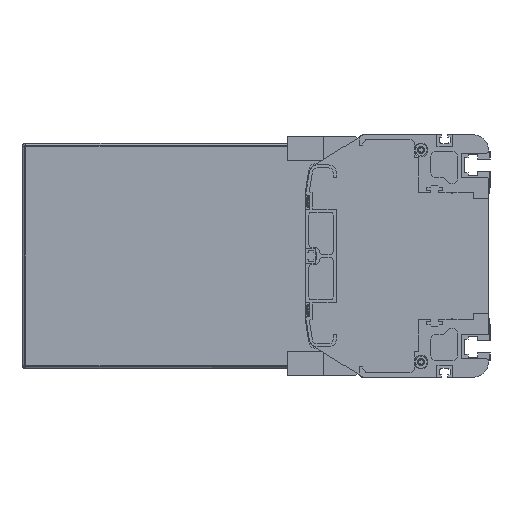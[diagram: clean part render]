
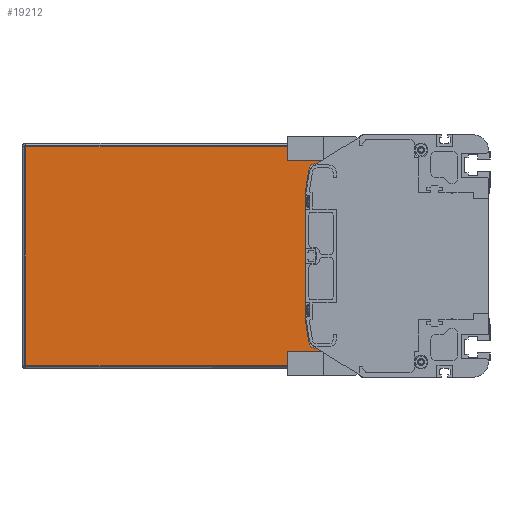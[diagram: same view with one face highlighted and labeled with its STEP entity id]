
A CAD part, left-side view. The second image highlights one B-rep face of the part: STEP entity #19212.
In plain terms, the highlighted planar face has unit normal (-1, 0, 0).
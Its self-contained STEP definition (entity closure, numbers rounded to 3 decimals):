
#173=DIRECTION('',(0.,-1.,0.));
#174=VECTOR('',#173,220.5);
#175=CARTESIAN_POINT('',(2386.5,306.5,-72.));
#176=LINE('',#175,#174);
#379=DIRECTION('',(0.,0.,-1.));
#380=VECTOR('',#379,11.);
#381=CARTESIAN_POINT('',(2386.5,86.,-61.));
#382=LINE('',#381,#380);
#388=DIRECTION('',(0.,0.,-1.));
#389=VECTOR('',#388,11.);
#390=CARTESIAN_POINT('',(2386.5,86.,72.));
#391=LINE('',#390,#389);
#397=CARTESIAN_POINT('',(2386.5,114.728,56.));
#398=DIRECTION('',(-1.,0.,0.));
#399=DIRECTION('',(0.,0.,1.));
#400=AXIS2_PLACEMENT_3D('',#397,#398,#399);
#402=DIRECTION('',(0.,0.156,-0.988));
#403=VECTOR('',#402,14.963);
#404=CARTESIAN_POINT('',(2386.5,119.666,56.78));
#405=LINE('',#404,#403);
#406=DIRECTION('',(0.,-0.156,-0.988));
#407=VECTOR('',#406,14.963);
#408=CARTESIAN_POINT('',(2386.5,122.,-42.));
#409=LINE('',#408,#407);
#410=CARTESIAN_POINT('',(2386.5,114.728,-56.));
#411=DIRECTION('',(-1.,0.,0.));
#412=DIRECTION('',(0.,0.988,-0.156));
#413=AXIS2_PLACEMENT_3D('',#410,#411,#412);
#419=DIRECTION('',(0.,0.,-1.));
#420=VECTOR('',#419,144.);
#421=CARTESIAN_POINT('',(2386.5,306.5,72.));
#422=LINE('',#421,#420);
#509=DIRECTION('',(0.,1.,0.));
#510=VECTOR('',#509,220.5);
#511=CARTESIAN_POINT('',(2386.5,86.,72.));
#512=LINE('',#511,#510);
#796=DIRECTION('',(0.,-1.,0.));
#797=VECTOR('',#796,28.728);
#798=CARTESIAN_POINT('',(2386.5,114.728,61.));
#799=LINE('',#798,#797);
#9275=DIRECTION('',(0.,1.,0.));
#9276=VECTOR('',#9275,28.728);
#9277=CARTESIAN_POINT('',(2386.5,86.,-61.));
#9278=LINE('',#9277,#9276);
#9295=DIRECTION('',(0.,0.,1.));
#9296=VECTOR('',#9295,84.);
#9297=CARTESIAN_POINT('',(2386.5,122.,-42.));
#9298=LINE('',#9297,#9296);
#15230=CARTESIAN_POINT('',(2386.5,306.5,-72.));
#15231=CARTESIAN_POINT('',(2386.5,86.,-72.));
#15232=VERTEX_POINT('',#15230);
#15233=VERTEX_POINT('',#15231);
#15234=CARTESIAN_POINT('',(2386.5,86.,-61.));
#15235=VERTEX_POINT('',#15234);
#15236=CARTESIAN_POINT('',(2386.5,114.728,-61.));
#15237=VERTEX_POINT('',#15236);
#15238=CARTESIAN_POINT('',(2386.5,119.666,-56.78));
#15239=VERTEX_POINT('',#15238);
#15240=CARTESIAN_POINT('',(2386.5,122.,-42.));
#15241=VERTEX_POINT('',#15240);
#15242=CARTESIAN_POINT('',(2386.5,122.,42.));
#15243=VERTEX_POINT('',#15242);
#15244=CARTESIAN_POINT('',(2386.5,119.666,56.78));
#15245=VERTEX_POINT('',#15244);
#15246=CARTESIAN_POINT('',(2386.5,114.728,61.));
#15247=VERTEX_POINT('',#15246);
#15248=CARTESIAN_POINT('',(2386.5,86.,61.));
#15249=VERTEX_POINT('',#15248);
#15250=CARTESIAN_POINT('',(2386.5,86.,72.));
#15251=VERTEX_POINT('',#15250);
#15252=CARTESIAN_POINT('',(2386.5,306.5,72.));
#15253=VERTEX_POINT('',#15252);
#19184=CARTESIAN_POINT('',(2386.5,196.25,0.));
#19185=DIRECTION('',(1.,0.,0.));
#19186=DIRECTION('',(0.,0.,-1.));
#19187=AXIS2_PLACEMENT_3D('',#19184,#19185,#19186);
#19188=PLANE('',#19187);
#19189=ORIENTED_EDGE('',*,*,#18739,.F.);
#19191=ORIENTED_EDGE('',*,*,#19190,.F.);
#19193=ORIENTED_EDGE('',*,*,#19192,.F.);
#19194=ORIENTED_EDGE('',*,*,#19177,.T.);
#19196=ORIENTED_EDGE('',*,*,#19195,.F.);
#19198=ORIENTED_EDGE('',*,*,#19197,.T.);
#19200=ORIENTED_EDGE('',*,*,#19199,.T.);
#19202=ORIENTED_EDGE('',*,*,#19201,.F.);
#19204=ORIENTED_EDGE('',*,*,#19203,.T.);
#19206=ORIENTED_EDGE('',*,*,#19205,.T.);
#19208=ORIENTED_EDGE('',*,*,#19207,.F.);
#19209=ORIENTED_EDGE('',*,*,#19145,.T.);
#19210=EDGE_LOOP('',(#19189,#19191,#19193,#19194,#19196,#19198,#19200,#19202,
#19204,#19206,#19208,#19209));
#19211=FACE_OUTER_BOUND('',#19210,.F.);
#19212=ADVANCED_FACE('',(#19211),#19188,.F.);
#401=CIRCLE('',#400,5.);
#414=CIRCLE('',#413,5.);
#18739=EDGE_CURVE('',#15232,#15233,#176,.T.);
#19145=EDGE_CURVE('',#15235,#15233,#382,.T.);
#19177=EDGE_CURVE('',#15251,#15249,#391,.T.);
#19190=EDGE_CURVE('',#15253,#15232,#422,.T.);
#19192=EDGE_CURVE('',#15251,#15253,#512,.T.);
#19195=EDGE_CURVE('',#15247,#15249,#799,.T.);
#19197=EDGE_CURVE('',#15247,#15245,#401,.T.);
#19199=EDGE_CURVE('',#15245,#15243,#405,.T.);
#19201=EDGE_CURVE('',#15241,#15243,#9298,.T.);
#19203=EDGE_CURVE('',#15241,#15239,#409,.T.);
#19205=EDGE_CURVE('',#15239,#15237,#414,.T.);
#19207=EDGE_CURVE('',#15235,#15237,#9278,.T.);
